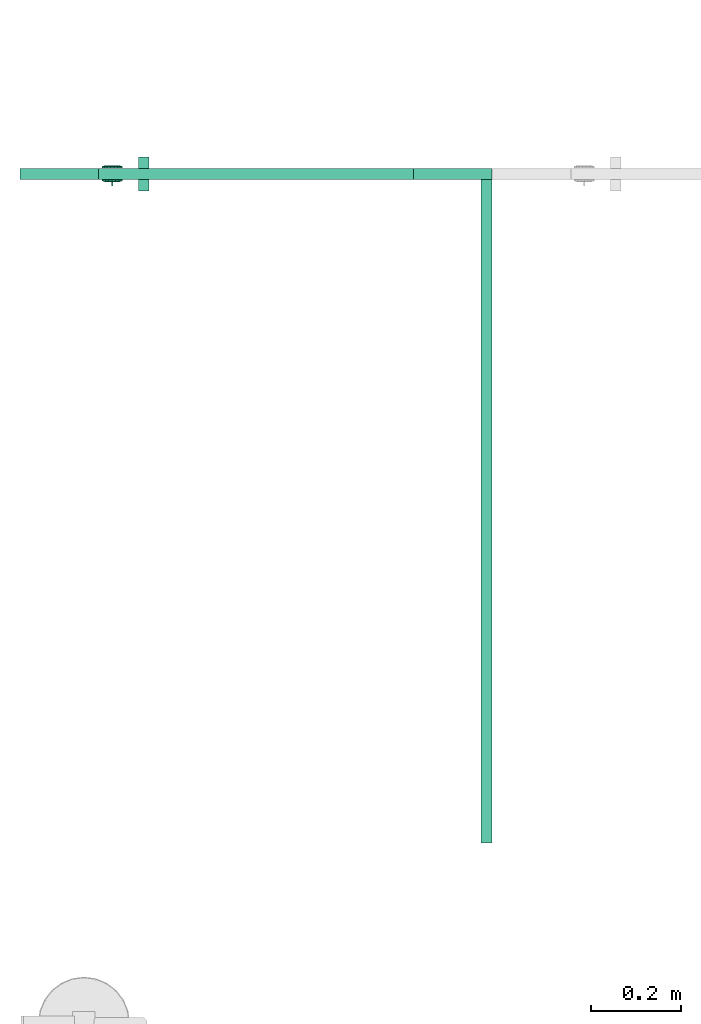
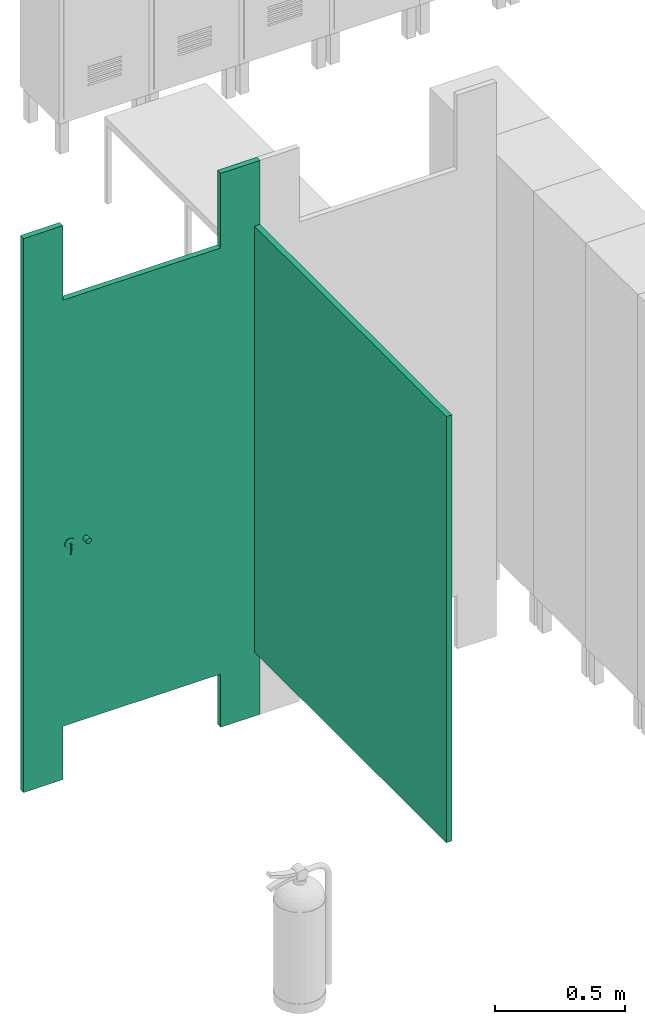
# One storey, part 3 of 9: 1 sanitary terminal.
"""IFC4 building model written with IfcOpenShell, lengths in millimetres."""

from ifc_helpers import new_model, entity, si_unit, converted_unit, derived_unit, direction, frame, origin_with_axes, place, context, subcontext, project, spatial, polygons, type_object, element, save


model = new_model("IFC4")

# Units and contexts
model_context = context("Model", 3, precision=0.01, world=origin_with_axes(), true_north=direction((0.0, 1.0)))
body_context = subcontext(model_context, "Body", "Model", "MODEL_VIEW")
ifc_project = project(units=[si_unit("LENGTHUNIT", "METRE", prefix="MILLI"), si_unit("AREAUNIT", "SQUARE_METRE"), si_unit("VOLUMEUNIT", "CUBIC_METRE"), converted_unit("PLANEANGLEUNIT", "DEGREE", entity("IfcPlaneAngleMeasure", 0.0174532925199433), si_unit("PLANEANGLEUNIT", "RADIAN"), dimensions=[0, 0, 0, 0, 0, 0, 0]), converted_unit("TIMEUNIT", "Year", entity("IfcTimeMeasure", 31557600.0), si_unit("TIMEUNIT", "SECOND"), dimensions=[0, 0, 1, 0, 0, 0, 0]), si_unit("MASSUNIT", "GRAM", prefix="KILO"), si_unit("THERMODYNAMICTEMPERATUREUNIT", "DEGREE_CELSIUS"), si_unit("LUMINOUSINTENSITYUNIT", "LUMEN"), si_unit("ENERGYUNIT", "JOULE", prefix="MEGA"), derived_unit("THERMALCONDUCTANCEUNIT", [(si_unit("POWERUNIT", "WATT"), 1), (si_unit("LENGTHUNIT", "METRE"), -1), (si_unit("THERMODYNAMICTEMPERATUREUNIT", "KELVIN"), -1)]), derived_unit("SPECIFICHEATCAPACITYUNIT", [(si_unit("ENERGYUNIT", "JOULE"), 1), (si_unit("MASSUNIT", "GRAM", prefix="KILO"), -1), (si_unit("THERMODYNAMICTEMPERATUREUNIT", "KELVIN"), -1)]), derived_unit("MASSDENSITYUNIT", [(si_unit("MASSUNIT", "GRAM", prefix="KILO"), 1), (si_unit("VOLUMEUNIT", "CUBIC_METRE"), -1)])], contexts=[model_context])

# Site, building, storey
site_placement = place(None, origin_with_axes())
site = spatial("IfcSite", under=ifc_project, at=site_placement, Name="Exteriér", CompositionType="ELEMENT")
building_placement = place(site_placement, origin_with_axes())
building = spatial("IfcBuilding", under=site, at=building_placement, Name="Univerzitní lezecké centrum", CompositionType="ELEMENT")
storey_placement = place(building_placement, frame((0.0, 0.0, 3200.0), z_axis=(0.0, 0.0, 1.0), x_axis=(1.0, 0.0, 0.0)))
storey = spatial("IfcBuildingStorey", under=building, at=storey_placement, Name="2.NP", CompositionType="ELEMENT", Elevation=3200.0)

# Sanitary terminal
sanitary_terminal_type = type_object("IfcSanitaryTerminalType", Name="Veřejná koupelnová kabinka 27", PredefinedType="NOTDEFINED")
sanitary_terminal_placement = place(storey_placement, frame((-4050.351766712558, 500.3872060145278, 0.0), z_axis=(0.0, 0.0, 1.0), x_axis=(-1.0, 0.0, 0.0)))
element("IfcSanitaryTerminal", 1, at=sanitary_terminal_placement, inside=storey, type_object=sanitary_terminal_type, Name="OV24", PredefinedType="NOTDEFINED", context=body_context, shape_type="Tessellation", body=[
    polygons([(0.0, 0.0, 200.0), (175.0000000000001, 0.0, 200.0), (175.0000000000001, 0.0, 2600.0), (0.0, 0.0, 2600.0), (0.0, 25.0, 200.0), (175.0000000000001, 25.0, 200.0), (175.0000000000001, 25.0, 2600.0), (0.0, 25.0, 2600.0)], [[[1, 2, 3, 4]], [[1, 5, 6, 2]], [[2, 6, 7, 3]], [[4, 3, 7, 8]], [[5, 1, 4, 8]], [[6, 5, 8, 7]]], closed=True),
    polygons([(875.0, 0.0, 200.0), (1050.0, 0.0, 200.0), (1050.0, 0.0, 2600.0), (875.0, 0.0, 2600.0), (875.0, 25.0, 200.0), (1050.0, 25.0, 200.0), (1050.0, 25.0, 2600.0), (875.0, 25.0, 2600.0)], [[[1, 2, 3, 4]], [[1, 5, 6, 2]], [[2, 6, 7, 3]], [[4, 3, 7, 8]], [[5, 1, 4, 8]], [[6, 5, 8, 7]]], closed=True),
    polygons([(0.0, 0.0, 0.0), (175.0000000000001, 0.0, 0.0), (175.0000000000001, 0.0, 200.0), (0.0, 0.0, 200.0), (0.0, 25.0, 0.0), (175.0000000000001, 25.0, 0.0), (175.0000000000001, 25.0, 200.0), (0.0, 25.0, 200.0)], [[[1, 2, 3, 4]], [[1, 5, 6, 2]], [[2, 6, 7, 3]], [[4, 3, 7, 8]], [[5, 1, 4, 8]], [[6, 5, 8, 7]]], closed=True),
    polygons([(875.0, 0.0, 0.0), (1050.0, 0.0, 0.0), (1050.0, 0.0, 200.0), (875.0, 0.0, 200.0), (875.0, 25.0, 0.0), (1050.0, 25.0, 0.0), (1050.0, 25.0, 200.0), (875.0, 25.0, 200.0)], [[[1, 2, 3, 4]], [[1, 5, 6, 2]], [[2, 6, 7, 3]], [[4, 3, 7, 8]], [[5, 1, 4, 8]], [[6, 5, 8, 7]]], closed=True),
    polygons([(175.0000000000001, 0.0, 250.0), (875.0, 0.0, 250.0), (875.0, 0.0, 2250.0), (175.0000000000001, 0.0, 2250.0), (175.0000000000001, 25.0, 250.0), (875.0, 25.0, 250.0), (875.0, 25.0, 2250.0), (175.0000000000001, 25.0, 2250.0)], [[[1, 2, 3, 4]], [[1, 5, 6, 2]], [[2, 6, 7, 3]], [[4, 3, 7, 8]], [[5, 1, 4, 8]], [[6, 5, 8, 7]]], closed=True),
    polygons([(843.5, 30.0, 1103.0), (846.5, 30.0, 1103.0), (846.5, 32.0, 1103.0), (843.5, 32.0, 1103.0), (843.5, 30.0, 1097.0), (846.5, 30.0, 1097.0), (846.5, 32.0, 1097.0), (846.5, 32.0, 1053.0), (846.5, 34.0, 1051.0), (846.5, 35.0, 1051.0), (846.5, 38.00000000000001, 1072.0), (846.5, 39.00000000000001, 1090.0), (846.5, 39.00000000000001, 1102.0), (843.5, 39.00000000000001, 1102.0), (843.5, 39.00000000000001, 1090.0), (843.5, 38.00000000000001, 1072.0), (843.5, 35.0, 1051.0), (843.5, 34.0, 1051.0), (843.5, 32.0, 1053.0), (843.5, 32.0, 1097.0)], [[[1, 2, 3, 4]], [[5, 6, 2, 1]], [[2, 6, 7, 8, 9, 10, 11, 12, 13, 3]], [[4, 3, 13, 14]], [[1, 4, 14, 15, 16, 17, 18, 19, 20, 5]], [[20, 7, 6, 5]], [[19, 8, 7, 20]], [[18, 9, 8, 19]], [[17, 10, 9, 18]], [[16, 11, 10, 17]], [[15, 12, 11, 16]], [[14, 13, 12, 15]]], closed=True),
    polygons([(839.1856575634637, 30.0, 1115.97477455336), (837.1335367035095, 28.0, 1121.612930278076), (845.0, 28.0, 1123.0), (845.0, 30.0, 1117.0), (834.0726106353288, 30.0, 1113.022755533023), (830.2158849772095, 28.0, 1117.619022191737), (837.1335367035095, 25.0, 1121.612930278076), (845.0, 25.0, 1123.0), (852.8664632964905, 28.0, 1121.612930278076), (850.8143424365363, 30.0, 1115.97477455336), (855.9273893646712, 30.0, 1113.022755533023), (859.7224318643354, 30.0, 1108.5), (861.7417318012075, 30.0, 1102.952019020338), (861.7417318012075, 30.0, 1097.047980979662), (859.7224318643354, 30.0, 1091.5), (855.9273893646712, 30.0, 1086.977244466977), (850.8143424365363, 30.0, 1084.02522544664), (845.0, 30.0, 1083.0), (839.1856575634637, 30.0, 1084.02522544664), (834.0726106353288, 30.0, 1086.977244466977), (830.2775681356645, 30.0, 1091.5), (828.2582681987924, 30.0, 1097.047980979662), (828.2582681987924, 30.0, 1102.952019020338), (830.2775681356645, 30.0, 1108.5), (825.0814157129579, 28.0, 1111.5), (830.2158849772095, 25.0, 1117.619022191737), (852.8664632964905, 25.0, 1121.612930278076), (859.7841150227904, 28.0, 1117.619022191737), (864.918584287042, 28.0, 1111.5), (867.6505783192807, 28.0, 1103.993908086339), (867.6505783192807, 28.0, 1096.006091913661), (864.918584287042, 28.0, 1088.5), (859.7841150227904, 28.0, 1082.380977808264), (852.8664632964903, 28.0, 1078.387069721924), (845.0, 28.0, 1077.0), (837.1335367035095, 28.0, 1078.387069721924), (830.2158849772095, 28.0, 1082.380977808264), (825.0814157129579, 28.0, 1088.5), (822.3494216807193, 28.0, 1096.006091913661), (822.3494216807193, 28.0, 1103.993908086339), (825.0814157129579, 25.0, 1111.5), (859.7841150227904, 25.0, 1117.619022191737), (864.918584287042, 25.0, 1111.5), (867.6505783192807, 25.0, 1103.993908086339), (867.6505783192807, 25.0, 1096.006091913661), (864.918584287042, 25.0, 1088.5), (859.7841150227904, 25.0, 1082.380977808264), (852.8664632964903, 25.0, 1078.387069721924), (845.0, 25.0, 1077.0), (837.1335367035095, 25.0, 1078.387069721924), (830.2158849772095, 25.0, 1082.380977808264), (825.0814157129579, 25.0, 1088.5), (822.3494216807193, 25.0, 1096.006091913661), (822.3494216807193, 25.0, 1103.993908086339)], [[[1, 2, 3, 4]], [[5, 6, 2, 1]], [[2, 7, 8, 3]], [[4, 3, 9, 10]], [[4, 10, 11, 12, 13, 14, 15, 16, 17, 18, 19, 20, 21, 22, 23, 24, 5, 1]], [[24, 25, 6, 5]], [[6, 26, 7, 2]], [[3, 8, 27, 9]], [[10, 9, 28, 11]], [[11, 28, 29, 12]], [[12, 29, 30, 13]], [[13, 30, 31, 14]], [[14, 31, 32, 15]], [[15, 32, 33, 16]], [[16, 33, 34, 17]], [[17, 34, 35, 18]], [[18, 35, 36, 19]], [[19, 36, 37, 20]], [[20, 37, 38, 21]], [[21, 38, 39, 22]], [[22, 39, 40, 23]], [[23, 40, 25, 24]], [[25, 41, 26, 6]], [[9, 27, 42, 28]], [[28, 42, 43, 29]], [[29, 43, 44, 30]], [[30, 44, 45, 31]], [[31, 45, 46, 32]], [[32, 46, 47, 33]], [[33, 47, 48, 34]], [[34, 48, 49, 35]], [[35, 49, 50, 36]], [[36, 50, 51, 37]], [[37, 51, 52, 38]], [[38, 52, 53, 39]], [[39, 53, 54, 40]], [[40, 54, 41, 25]]], closed=False),
    polygons([(822.0, -1.200000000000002, 1100.0), (822.0, -4.200000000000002, 1100.0), (823.3870697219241, -4.200000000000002, 1107.866463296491), (823.3870697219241, -1.200000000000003, 1107.866463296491), (823.3870697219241, -1.200000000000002, 1092.13353670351), (823.3870697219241, -4.200000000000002, 1092.13353670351), (827.3809778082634, -4.2, 1085.215884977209), (833.5, -4.2, 1080.081415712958), (841.0060919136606, -4.199999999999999, 1077.349421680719), (848.9939080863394, -4.199999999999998, 1077.349421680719), (856.5, -4.199999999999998, 1080.081415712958), (862.6190221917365, -4.199999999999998, 1085.21588497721), (866.6129302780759, -4.199999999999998, 1092.13353670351), (868.0, -4.199999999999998, 1100.0), (866.6129302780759, -4.199999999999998, 1107.866463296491), (862.6190221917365, -4.199999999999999, 1114.784115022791), (856.4999999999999, -4.2, 1119.918584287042), (848.9939080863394, -4.2, 1122.650578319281), (841.0060919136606, -4.200000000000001, 1122.650578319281), (833.5, -4.200000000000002, 1119.918584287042), (827.3809778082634, -4.200000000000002, 1114.784115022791), (827.3809778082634, -1.200000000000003, 1114.784115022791), (833.5, -1.200000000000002, 1119.918584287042), (841.0060919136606, -1.200000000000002, 1122.650578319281), (848.9939080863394, -1.200000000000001, 1122.650578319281), (856.4999999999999, -1.2, 1119.918584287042), (862.6190221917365, -1.199999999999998, 1114.784115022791), (866.6129302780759, -1.199999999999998, 1107.866463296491), (868.0, -1.199999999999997, 1100.0), (866.6129302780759, -1.199999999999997, 1092.13353670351), (862.6190221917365, -1.199999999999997, 1085.21588497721), (856.5, -1.199999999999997, 1080.081415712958), (848.9939080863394, -1.199999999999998, 1077.349421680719), (841.0060919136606, -1.199999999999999, 1077.349421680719), (833.5, -1.2, 1080.081415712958), (827.3809778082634, -1.200000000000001, 1085.215884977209)], [[[1, 2, 3, 4]], [[5, 6, 2, 1]], [[2, 6, 7, 8, 9, 10, 11, 12, 13, 14, 15, 16, 17, 18, 19, 20, 21, 3]], [[4, 3, 21, 22]], [[1, 4, 22, 23, 24, 25, 26, 27, 28, 29, 30, 31, 32, 33, 34, 35, 36, 5]], [[36, 7, 6, 5]], [[35, 8, 7, 36]], [[34, 9, 8, 35]], [[33, 10, 9, 34]], [[32, 11, 10, 33]], [[31, 12, 11, 32]], [[30, 13, 12, 31]], [[29, 14, 13, 30]], [[28, 15, 14, 29]], [[27, 16, 15, 28]], [[26, 17, 16, 27]], [[25, 18, 17, 26]], [[24, 19, 18, 25]], [[23, 20, 19, 24]], [[22, 21, 20, 23]]], closed=True),
    polygons([(853.4999999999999, -6.199999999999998, 1085.277568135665), (858.0227555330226, -6.199999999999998, 1089.072610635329), (860.9747745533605, -6.199999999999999, 1094.185657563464), (862.0, -6.199999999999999, 1100.0), (860.9747745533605, -6.199999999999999, 1105.814342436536), (858.0227555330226, -6.2, 1110.927389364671), (853.4999999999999, -6.2, 1114.722431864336), (847.9520190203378, -6.200000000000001, 1116.741731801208), (842.0479809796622, -6.200000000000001, 1116.741731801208), (836.4999999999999, -6.200000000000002, 1114.722431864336), (831.9772444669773, -6.200000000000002, 1110.927389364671), (829.0252254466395, -6.200000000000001, 1105.814342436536), (828.0, -6.200000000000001, 1100.0), (829.0252254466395, -6.200000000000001, 1094.185657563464), (831.9772444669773, -6.2, 1089.072610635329), (836.5, -6.2, 1085.277568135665), (842.0479809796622, -6.199999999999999, 1083.258268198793), (847.9520190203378, -6.199999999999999, 1083.258268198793), (841.0, -6.200000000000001, 1107.5), (841.0, -6.200000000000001, 1112.5), (849.0, -6.200000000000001, 1112.5), (849.0, -6.2, 1107.5), (856.4999999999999, -4.199999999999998, 1080.081415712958), (862.6190221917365, -4.199999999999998, 1085.21588497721), (866.6129302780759, -4.199999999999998, 1092.13353670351), (868.0, -4.199999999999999, 1100.0), (866.6129302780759, -4.199999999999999, 1107.866463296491), (862.6190221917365, -4.2, 1114.784115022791), (856.4999999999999, -4.2, 1119.918584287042), (848.9939080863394, -4.2, 1122.650578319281), (841.0060919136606, -4.200000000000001, 1122.650578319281), (833.4999999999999, -4.200000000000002, 1119.918584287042), (827.3809778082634, -4.200000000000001, 1114.784115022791), (823.3870697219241, -4.200000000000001, 1107.866463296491), (822.0, -4.2, 1100.0), (823.3870697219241, -4.2, 1092.13353670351), (827.3809778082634, -4.2, 1085.21588497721), (833.5, -4.199999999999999, 1080.081415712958), (841.0060919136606, -4.199999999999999, 1077.349421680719), (848.9939080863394, -4.199999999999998, 1077.349421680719), (841.0, -4.2, 1107.5), (841.0, -4.200000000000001, 1112.5), (849.0, -4.2, 1112.5), (849.0, -4.2, 1107.5)], [[[1, 2, 3, 4, 5, 6, 7, 8, 9, 10, 11, 12, 13, 14, 15, 16, 17, 18], [19, 20, 21, 22]], [[23, 24, 2, 1]], [[24, 25, 3, 2]], [[25, 26, 4, 3]], [[26, 27, 5, 4]], [[27, 28, 6, 5]], [[28, 29, 7, 6]], [[29, 30, 8, 7]], [[30, 31, 9, 8]], [[31, 32, 10, 9]], [[32, 33, 11, 10]], [[33, 34, 12, 11]], [[34, 35, 13, 12]], [[35, 36, 14, 13]], [[36, 37, 15, 14]], [[37, 38, 16, 15]], [[38, 39, 17, 16]], [[39, 40, 18, 17]], [[40, 23, 1, 18]], [[41, 42, 20, 19]], [[42, 43, 21, 20]], [[43, 44, 22, 21]], [[44, 41, 19, 22]], [[29, 28, 27, 26, 25, 24, 23, 40, 39, 38, 37, 36, 35, 34, 33, 32, 31, 30], [41, 44, 43, 42]]], closed=True),
    polygons([(841.0, -4.210000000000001, 1112.5), (849.0, -4.21, 1112.5), (849.0, -4.21, 1107.5), (841.0, -4.210000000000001, 1107.5)], [[[1, 2, 3, 4]]], closed=False),
    polygons([(786.5911099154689, 25.0, 1096.89417145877), (787.0, 25.0, 1100.0), (786.5911099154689, 25.0, 1103.10582854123), (785.3923048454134, 25.0, 1106.0), (783.4852813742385, 25.0, 1108.485281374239), (781.0, 25.0, 1110.392304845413), (778.1058285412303, 25.0, 1111.591109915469), (775.0, 25.0, 1112.0), (771.8941714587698, 25.0, 1111.591109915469), (769.0, 25.0, 1110.392304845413), (766.5147186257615, 25.0, 1108.485281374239), (764.6076951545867, 25.0, 1106.0), (763.4088900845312, 25.0, 1103.10582854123), (763.0, 25.0, 1100.0), (763.4088900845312, 25.0, 1096.89417145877), (764.6076951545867, 25.0, 1094.0), (766.5147186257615, 25.0, 1091.514718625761), (769.0, 25.0, 1089.607695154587), (771.8941714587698, 25.0, 1088.408890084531), (775.0, 25.0, 1088.0), (778.1058285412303, 25.0, 1088.408890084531), (781.0, 25.0, 1089.607695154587), (783.4852813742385, 25.0, 1091.514718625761), (785.3923048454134, 25.0, 1094.0), (786.5911099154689, 50.0, 1096.89417145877), (787.0, 50.0, 1100.0), (786.5911099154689, 50.0, 1103.10582854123), (785.3923048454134, 50.0, 1106.0), (783.4852813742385, 50.0, 1108.485281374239), (781.0, 50.0, 1110.392304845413), (778.1058285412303, 50.0, 1111.591109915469), (775.0, 50.0, 1112.0), (771.8941714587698, 50.0, 1111.591109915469), (769.0, 50.0, 1110.392304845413), (766.5147186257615, 50.0, 1108.485281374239), (764.6076951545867, 50.0, 1106.0), (763.4088900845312, 50.0, 1103.10582854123), (763.0, 50.0, 1100.0), (763.4088900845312, 50.0, 1096.89417145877), (764.6076951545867, 50.0, 1094.0), (766.5147186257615, 50.0, 1091.514718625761), (769.0, 50.0, 1089.607695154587), (771.8941714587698, 50.0, 1088.408890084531), (775.0, 50.0, 1088.0), (778.1058285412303, 50.0, 1088.408890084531), (781.0, 50.0, 1089.607695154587), (783.4852813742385, 50.0, 1091.514718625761), (785.3923048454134, 50.0, 1094.0)], [[[1, 2, 3, 4, 5, 6, 7, 8, 9, 10, 11, 12, 13, 14, 15, 16, 17, 18, 19, 20, 21, 22, 23, 24]], [[1, 25, 26, 2]], [[2, 26, 27, 3]], [[3, 27, 28, 4]], [[4, 28, 29, 5]], [[5, 29, 30, 6]], [[6, 30, 31, 7]], [[7, 31, 32, 8]], [[8, 32, 33, 9]], [[9, 33, 34, 10]], [[10, 34, 35, 11]], [[11, 35, 36, 12]], [[12, 36, 37, 13]], [[13, 37, 38, 14]], [[14, 38, 39, 15]], [[15, 39, 40, 16]], [[16, 40, 41, 17]], [[17, 41, 42, 18]], [[18, 42, 43, 19]], [[19, 43, 44, 20]], [[20, 44, 45, 21]], [[21, 45, 46, 22]], [[22, 46, 47, 23]], [[23, 47, 48, 24]], [[24, 48, 25, 1]], [[25, 48, 47, 46, 45, 44, 43, 42, 41, 40, 39, 38, 37, 36, 35, 34, 33, 32, 31, 30, 29, 28, 27, 26]]], closed=True),
    polygons([(786.5911099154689, 0.0, 1096.89417145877), (785.3923048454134, 0.0, 1094.0), (783.4852813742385, 0.0, 1091.514718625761), (781.0, 0.0, 1089.607695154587), (778.1058285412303, 0.0, 1088.408890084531), (775.0, 0.0, 1088.0), (771.8941714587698, 0.0, 1088.408890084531), (769.0, 0.0, 1089.607695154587), (766.5147186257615, 0.0, 1091.514718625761), (764.6076951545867, 0.0, 1094.0), (763.4088900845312, 0.0, 1096.89417145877), (763.0, 0.0, 1100.0), (763.4088900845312, 0.0, 1103.10582854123), (764.6076951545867, 0.0, 1106.0), (766.5147186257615, 0.0, 1108.485281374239), (769.0, 0.0, 1110.392304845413), (771.8941714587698, 0.0, 1111.591109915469), (775.0, 0.0, 1112.0), (778.1058285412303, 0.0, 1111.591109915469), (781.0, 0.0, 1110.392304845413), (783.4852813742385, 0.0, 1108.485281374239), (785.3923048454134, 0.0, 1106.0), (786.5911099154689, 0.0, 1103.10582854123), (787.0, 0.0, 1100.0), (786.5911099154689, -25.0, 1096.89417145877), (785.3923048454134, -25.0, 1094.0), (783.4852813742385, -25.0, 1091.514718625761), (781.0, -25.0, 1089.607695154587), (778.1058285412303, -25.0, 1088.408890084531), (775.0, -25.0, 1088.0), (771.8941714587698, -25.0, 1088.408890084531), (769.0, -25.0, 1089.607695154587), (766.5147186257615, -25.0, 1091.514718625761), (764.6076951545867, -25.0, 1094.0), (763.4088900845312, -25.0, 1096.89417145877), (763.0, -25.0, 1100.0), (763.4088900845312, -25.0, 1103.10582854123), (764.6076951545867, -25.0, 1106.0), (766.5147186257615, -25.0, 1108.485281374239), (769.0, -25.0, 1110.392304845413), (771.8941714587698, -25.0, 1111.591109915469), (775.0, -25.0, 1112.0), (778.1058285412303, -25.0, 1111.591109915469), (781.0, -25.0, 1110.392304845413), (783.4852813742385, -25.0, 1108.485281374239), (785.3923048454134, -25.0, 1106.0), (786.5911099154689, -25.0, 1103.10582854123), (787.0, -25.0, 1100.0)], [[[1, 2, 3, 4, 5, 6, 7, 8, 9, 10, 11, 12, 13, 14, 15, 16, 17, 18, 19, 20, 21, 22, 23, 24]], [[2, 1, 25, 26]], [[3, 2, 26, 27]], [[4, 3, 27, 28]], [[5, 4, 28, 29]], [[6, 5, 29, 30]], [[7, 6, 30, 31]], [[8, 7, 31, 32]], [[9, 8, 32, 33]], [[10, 9, 33, 34]], [[11, 10, 34, 35]], [[12, 11, 35, 36]], [[13, 12, 36, 37]], [[14, 13, 37, 38]], [[15, 14, 38, 39]], [[16, 15, 39, 40]], [[17, 16, 40, 41]], [[18, 17, 41, 42]], [[19, 18, 42, 43]], [[20, 19, 43, 44]], [[21, 20, 44, 45]], [[22, 21, 45, 46]], [[23, 22, 46, 47]], [[24, 23, 47, 48]], [[1, 24, 48, 25]], [[25, 48, 47, 46, 45, 44, 43, 42, 41, 40, 39, 38, 37, 36, 35, 34, 33, 32, 31, 30, 29, 28, 27, 26]]], closed=True),
    polygons([(25.0, 25.0, 300.0), (25.00000000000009, 1500.0, 300.0), (25.00000000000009, 1500.0, 2300.0), (25.0, 25.0, 2300.0), (0.0, 25.0, 300.0), (0.0, 1500.0, 300.0), (0.0, 1500.0, 2300.0), (0.0, 25.0, 2300.0)], [[[1, 2, 3, 4]], [[1, 5, 6, 2]], [[2, 6, 7, 3]], [[4, 3, 7, 8]], [[5, 1, 4, 8]], [[6, 5, 8, 7]]], closed=True),
])

save(model, "model.ifc")
